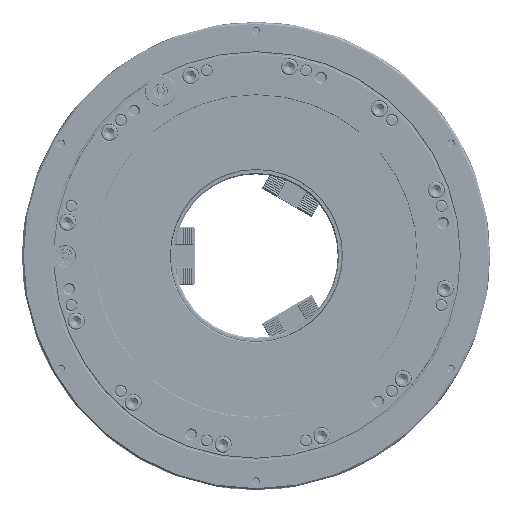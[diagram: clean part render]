
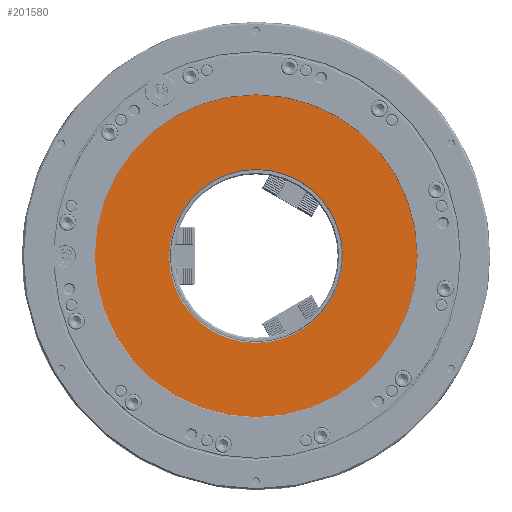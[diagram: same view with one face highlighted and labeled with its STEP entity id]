
A CAD part, left-side view. The second image highlights one B-rep face of the part: STEP entity #201580.
In plain terms, the highlighted planar face has unit normal (-1, 0, 0).
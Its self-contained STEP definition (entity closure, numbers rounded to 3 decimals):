
#8481 = FACE_BOUND ( 'NONE', #75701, .T. ) ;
#9816 = DIRECTION ( 'NONE',  ( -1., 0., 0. ) ) ;
#13299 = ORIENTED_EDGE ( 'NONE', *, *, #20343, .T. ) ;
#20343 = EDGE_CURVE ( 'NONE', #58865, #35574, #158154, .T. ) ;
#26426 = CARTESIAN_POINT ( 'NONE',  ( -17., 0., 0. ) ) ;
#31461 = VERTEX_POINT ( 'NONE', #161186 ) ;
#33092 = CARTESIAN_POINT ( 'NONE',  ( -17., 182.5, 0. ) ) ;
#35574 = VERTEX_POINT ( 'NONE', #82045 ) ;
#42002 = EDGE_CURVE ( 'NONE', #35574, #58865, #167390, .T. ) ;
#45336 = ORIENTED_EDGE ( 'NONE', *, *, #139461, .F. ) ;
#58865 = VERTEX_POINT ( 'NONE', #59113 ) ;
#59113 = CARTESIAN_POINT ( 'NONE',  ( -17., 0., -98.5 ) ) ;
#64651 = CARTESIAN_POINT ( 'NONE',  ( -17., 0., 0. ) ) ;
#69978 = ORIENTED_EDGE ( 'NONE', *, *, #42002, .T. ) ;
#74285 = CIRCLE ( 'NONE', #227624, 182.5 ) ;
#75701 = EDGE_LOOP ( 'NONE', ( #69978, #13299 ) ) ;
#82045 = CARTESIAN_POINT ( 'NONE',  ( -17., 0., 98.5 ) ) ;
#86549 = ORIENTED_EDGE ( 'NONE', *, *, #232877, .F. ) ;
#94789 = FACE_OUTER_BOUND ( 'NONE', #264778, .T. ) ;
#101679 = AXIS2_PLACEMENT_3D ( 'NONE', #33092, #9816, #236231 ) ;
#103034 = DIRECTION ( 'NONE',  ( 0., 0., -1. ) ) ;
#109097 = AXIS2_PLACEMENT_3D ( 'NONE', #252525, #150898, #124914 ) ;
#109997 = DIRECTION ( 'NONE',  ( 0., 0., -1. ) ) ;
#124914 = DIRECTION ( 'NONE',  ( 0., 0., -1. ) ) ;
#139461 = EDGE_CURVE ( 'NONE', #31461, #201778, #262478, .T. ) ;
#142828 = CARTESIAN_POINT ( 'NONE',  ( -17., 0., 0. ) ) ;
#144183 = DIRECTION ( 'NONE',  ( 1., 0., 0. ) ) ;
#150898 = DIRECTION ( 'NONE',  ( 1., 0., 0. ) ) ;
#158154 = CIRCLE ( 'NONE', #201878, 98.5 ) ;
#161186 = CARTESIAN_POINT ( 'NONE',  ( -17., 0., 182.5 ) ) ;
#167390 = CIRCLE ( 'NONE', #202416, 98.5 ) ;
#195095 = DIRECTION ( 'NONE',  ( 1., 0., 0. ) ) ;
#200442 = PLANE ( 'NONE',  #101679 ) ;
#201580 = ADVANCED_FACE ( 'NONE', ( #8481, #94789 ), #200442, .T. ) ;
#201778 = VERTEX_POINT ( 'NONE', #211298 ) ;
#201878 = AXIS2_PLACEMENT_3D ( 'NONE', #26426, #195095, #109997 ) ;
#202416 = AXIS2_PLACEMENT_3D ( 'NONE', #64651, #208747, #103034 ) ;
#208747 = DIRECTION ( 'NONE',  ( 1., 0., 0. ) ) ;
#211298 = CARTESIAN_POINT ( 'NONE',  ( -17., 0., -182.5 ) ) ;
#226552 = DIRECTION ( 'NONE',  ( 0., 0., -1. ) ) ;
#227624 = AXIS2_PLACEMENT_3D ( 'NONE', #142828, #144183, #226552 ) ;
#232877 = EDGE_CURVE ( 'NONE', #201778, #31461, #74285, .T. ) ;
#236231 = DIRECTION ( 'NONE',  ( 0., 0., 1. ) ) ;
#252525 = CARTESIAN_POINT ( 'NONE',  ( -17., 0., 0. ) ) ;
#262478 = CIRCLE ( 'NONE', #109097, 182.5 ) ;
#264778 = EDGE_LOOP ( 'NONE', ( #86549, #45336 ) ) ;
